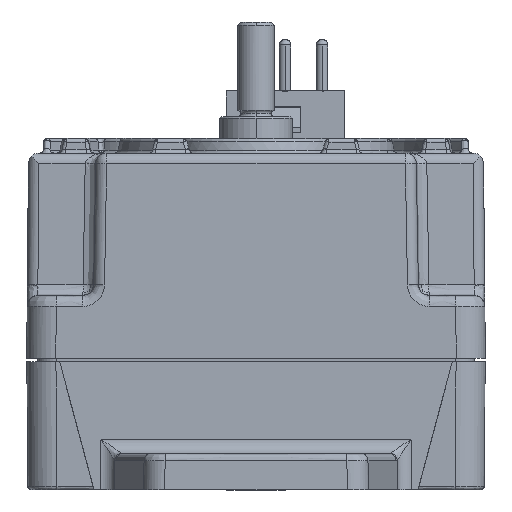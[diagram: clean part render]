
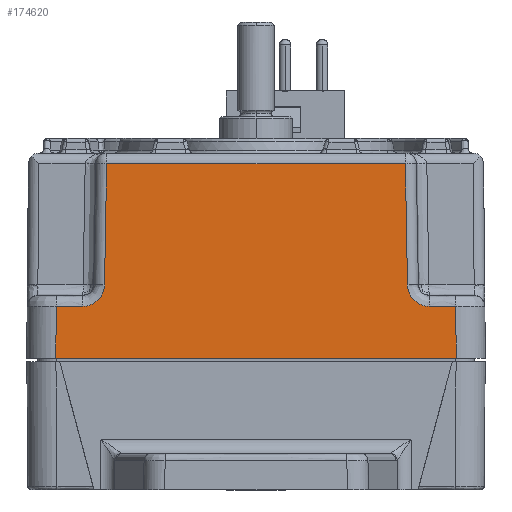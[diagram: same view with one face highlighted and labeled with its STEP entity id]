
A CAD part, left-side view. The second image highlights one B-rep face of the part: STEP entity #174620.
In plain terms, the highlighted planar face has unit normal (-1, 0, 0.009).
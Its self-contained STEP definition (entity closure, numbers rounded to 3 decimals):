
#5570=CARTESIAN_POINT('',(-49.943,23.77,
24.435));
#5580=VERTEX_POINT('',#5570);
#5610=CARTESIAN_POINT('',(-49.943,23.77,
24.435));
#5620=CARTESIAN_POINT('',(-49.943,23.854,
24.435));
#5630=CARTESIAN_POINT('',(-49.943,23.945,
24.433));
#5640=CARTESIAN_POINT('',(-49.943,24.556,
24.433));
#5650=CARTESIAN_POINT('',(-49.943,25.091,
24.433));
#5660=CARTESIAN_POINT('',(-49.943,26.732,
24.433));
#5670=CARTESIAN_POINT('',(-49.943,27.838,
24.433));
#5680=CARTESIAN_POINT('',(-49.943,28.943,
24.433));
#5690=B_SPLINE_CURVE_WITH_KNOTS('',3,(#5610,#5620,#5630,#5640,#5650,
#5660,#5670,#5680),.UNSPECIFIED.,.F.,.F.,(4,2,2,4),(0.,0.227
,1.833,5.15),.UNSPECIFIED.);
#5700=CARTESIAN_POINT('',(-49.943,27.443,
24.433));
#5710=VERTEX_POINT('',#5700);
#5720=EDGE_CURVE('',#5580,#5710,#5690,.T.);
#6970=CARTESIAN_POINT('',(-49.917,20.81,
27.407));
#6980=VERTEX_POINT('',#6970);
#7030=CARTESIAN_POINT('',(-49.917,20.81,
27.407));
#7040=CARTESIAN_POINT('',(-49.917,20.811,
27.398));
#7050=CARTESIAN_POINT('',(-49.917,20.811,
27.388));
#7060=CARTESIAN_POINT('',(-49.918,20.811,
27.369));
#7070=CARTESIAN_POINT('',(-49.918,20.811,
27.359));
#7080=CARTESIAN_POINT('',(-49.918,20.811,
27.344));
#7090=CARTESIAN_POINT('',(-49.918,20.812,
27.312));
#7100=CARTESIAN_POINT('',(-49.918,20.814,
27.262));
#7110=CARTESIAN_POINT('',(-49.919,20.817,
27.217));
#7120=CARTESIAN_POINT('',(-49.92,20.826,
27.113));
#7130=CARTESIAN_POINT('',(-49.921,20.836,
27.028));
#7140=CARTESIAN_POINT('',(-49.925,20.923,
26.497));
#7150=CARTESIAN_POINT('',(-49.93,21.129,
25.996));
#7160=CARTESIAN_POINT('',(-49.936,21.737,
25.208));
#7170=CARTESIAN_POINT('',(-49.939,22.136,
24.894));
#7180=CARTESIAN_POINT('',(-49.942,22.816,
24.592));
#7190=CARTESIAN_POINT('',(-49.942,23.068,
24.517));
#7200=CARTESIAN_POINT('',(-49.943,23.35,
24.468));
#7210=CARTESIAN_POINT('',(-49.943,23.405,
24.461));
#7220=CARTESIAN_POINT('',(-49.943,23.556,
24.445));
#7230=CARTESIAN_POINT('',(-49.943,23.667,
24.439));
#7240=CARTESIAN_POINT('',(-49.943,23.77,
24.435));
#7250=B_SPLINE_CURVE_WITH_KNOTS('',3,(#7030,#7040,#7050,#7060,#7070,
#7080,#7090,#7100,#7110,#7120,#7130,#7140,#7150,#7160,#7170,#7180,#7190,
#7200,#7210,#7220,#7230,#7240),.UNSPECIFIED.,.F.,.F.,(4,2,2,2,2,2,2,2,2,
2,4),(0.,0.466,0.931,1.088,
1.275,1.532,2.98,4.413,
5.122,5.294,5.596),.UNSPECIFIED.);
#7260=EDGE_CURVE('',#6980,#5580,#7250,.T.);
#8500=CARTESIAN_POINT('',(-49.772,20.52,
44.013));
#8510=VERTEX_POINT('',#8500);
#8540=CARTESIAN_POINT('',(-49.794,20.563,
41.513));
#8550=DIRECTION('',(-0.009,0.017,
-1.));
#8560=VECTOR('',#8550,1.);
#8570=LINE('',#8540,#8560);
#8580=EDGE_CURVE('',#8510,#6980,#8570,.T.);
#120170=CARTESIAN_POINT('',(-49.943,-27.443,
24.433));
#120180=VERTEX_POINT('',#120170);
#173650=CARTESIAN_POINT('',(-49.943,-23.77,
24.435));
#173660=CARTESIAN_POINT('',(-49.943,-23.854,
24.435));
#173670=CARTESIAN_POINT('',(-49.943,-23.945,
24.433));
#173680=CARTESIAN_POINT('',(-49.943,-24.556,
24.433));
#173690=CARTESIAN_POINT('',(-49.943,-25.091,
24.433));
#173700=CARTESIAN_POINT('',(-49.943,-26.732,
24.433));
#173710=CARTESIAN_POINT('',(-49.943,-27.838,
24.433));
#173720=CARTESIAN_POINT('',(-49.943,-28.943,
24.433));
#173730=B_SPLINE_CURVE_WITH_KNOTS('',3,(#173650,#173660,#173670,#173680,
#173690,#173700,#173710,#173720),.UNSPECIFIED.,.F.,.F.,(4,2,2,4),(0.,
0.227,1.833,5.15),.UNSPECIFIED.);
#173740=CARTESIAN_POINT('',(-49.943,-23.77,
24.435));
#173750=VERTEX_POINT('',#173740);
#173760=EDGE_CURVE('',#173750,#120180,#173730,.T.);
#173880=CARTESIAN_POINT('',(-50.,-7.697,
17.92));
#173890=DIRECTION('',(1.,0.,-0.009));
#173900=DIRECTION('',(0.,-1.,0.));
#173910=AXIS2_PLACEMENT_3D('',#173880,#173890,#173900);
#173920=PLANE('',#173910);
#173930=CARTESIAN_POINT('',(-50.005,7.697,
17.3));
#173940=DIRECTION('',(0.,1.,0.));
#173950=VECTOR('',#173940,1.);
#173960=LINE('',#173930,#173950);
#173970=CARTESIAN_POINT('',(-50.005,-27.506,
17.3));
#173980=VERTEX_POINT('',#173970);
#173990=CARTESIAN_POINT('',(-50.005,27.506,
17.3));
#174000=VERTEX_POINT('',#173990);
#174010=EDGE_CURVE('',#173980,#174000,#173960,.T.);
#174020=ORIENTED_EDGE('',*,*,#174010,.F.);
#174030=CARTESIAN_POINT('',(-49.947,27.447,
24.003));
#174040=DIRECTION('',(-0.009,0.009,
-1.));
#174050=VECTOR('',#174040,1.);
#174060=LINE('',#174030,#174050);
#174070=EDGE_CURVE('',#5710,#174000,#174060,.T.);
#174080=ORIENTED_EDGE('',*,*,#174070,.T.);
#174090=ORIENTED_EDGE('',*,*,#5720,.T.);
#174100=ORIENTED_EDGE('',*,*,#7260,.T.);
#174110=ORIENTED_EDGE('',*,*,#8580,.T.);
#174120=CARTESIAN_POINT('',(-49.772,-7.697,
44.013));
#174130=DIRECTION('',(0.,1.,0.));
#174140=VECTOR('',#174130,1.);
#174150=LINE('',#174120,#174140);
#174160=CARTESIAN_POINT('',(-49.772,-20.52,
44.013));
#174170=VERTEX_POINT('',#174160);
#174180=EDGE_CURVE('',#174170,#8510,#174150,.T.);
#174190=ORIENTED_EDGE('',*,*,#174180,.T.);
#174200=CARTESIAN_POINT('',(-49.794,-20.563,
41.513));
#174210=DIRECTION('',(-0.009,-0.017,
-1.));
#174220=VECTOR('',#174210,1.);
#174230=LINE('',#174200,#174220);
#174240=CARTESIAN_POINT('',(-49.917,-20.81,
27.407));
#174250=VERTEX_POINT('',#174240);
#174260=EDGE_CURVE('',#174170,#174250,#174230,.T.);
#174270=ORIENTED_EDGE('',*,*,#174260,.F.);
#174280=CARTESIAN_POINT('',(-49.917,-20.81,
27.407));
#174290=CARTESIAN_POINT('',(-49.917,-20.811,
27.398));
#174300=CARTESIAN_POINT('',(-49.917,-20.811,
27.388));
#174310=CARTESIAN_POINT('',(-49.918,-20.811,
27.369));
#174320=CARTESIAN_POINT('',(-49.918,-20.811,
27.359));
#174330=CARTESIAN_POINT('',(-49.918,-20.811,
27.344));
#174340=CARTESIAN_POINT('',(-49.918,-20.812,
27.312));
#174350=CARTESIAN_POINT('',(-49.918,-20.814,
27.262));
#174360=CARTESIAN_POINT('',(-49.919,-20.817,
27.217));
#174370=CARTESIAN_POINT('',(-49.92,-20.826,
27.113));
#174380=CARTESIAN_POINT('',(-49.921,-20.836,
27.028));
#174390=CARTESIAN_POINT('',(-49.925,-20.923,
26.497));
#174400=CARTESIAN_POINT('',(-49.93,-21.129,
25.996));
#174410=CARTESIAN_POINT('',(-49.936,-21.737,
25.208));
#174420=CARTESIAN_POINT('',(-49.939,-22.136,
24.894));
#174430=CARTESIAN_POINT('',(-49.942,-22.816,
24.592));
#174440=CARTESIAN_POINT('',(-49.942,-23.068,
24.517));
#174450=CARTESIAN_POINT('',(-49.943,-23.35,
24.468));
#174460=CARTESIAN_POINT('',(-49.943,-23.405,
24.461));
#174470=CARTESIAN_POINT('',(-49.943,-23.556,
24.445));
#174480=CARTESIAN_POINT('',(-49.943,-23.667,
24.439));
#174490=CARTESIAN_POINT('',(-49.943,-23.77,
24.435));
#174500=B_SPLINE_CURVE_WITH_KNOTS('',3,(#174280,#174290,#174300,#174310,
#174320,#174330,#174340,#174350,#174360,#174370,#174380,#174390,#174400,
#174410,#174420,#174430,#174440,#174450,#174460,#174470,#174480,#174490)
,.UNSPECIFIED.,.F.,.F.,(4,2,2,2,2,2,2,2,2,2,4),(0.,0.466,
0.931,1.088,1.275,1.532,
2.98,4.413,5.122,5.294,
5.596),.UNSPECIFIED.);
#174510=EDGE_CURVE('',#174250,#173750,#174500,.T.);
#174520=ORIENTED_EDGE('',*,*,#174510,.F.);
#174530=ORIENTED_EDGE('',*,*,#173760,.F.);
#174540=CARTESIAN_POINT('',(-49.947,-27.447,
24.003));
#174550=DIRECTION('',(-0.009,-0.009,
-1.));
#174560=VECTOR('',#174550,1.);
#174570=LINE('',#174540,#174560);
#174580=EDGE_CURVE('',#120180,#173980,#174570,.T.);
#174590=ORIENTED_EDGE('',*,*,#174580,.F.);
#174600=EDGE_LOOP('',(#174590,#174530,#174520,#174270,#174190,#174110,
#174100,#174090,#174080,#174020));
#174610=FACE_OUTER_BOUND('',#174600,.T.);
#174620=ADVANCED_FACE('',(#174610),#173920,.F.);
